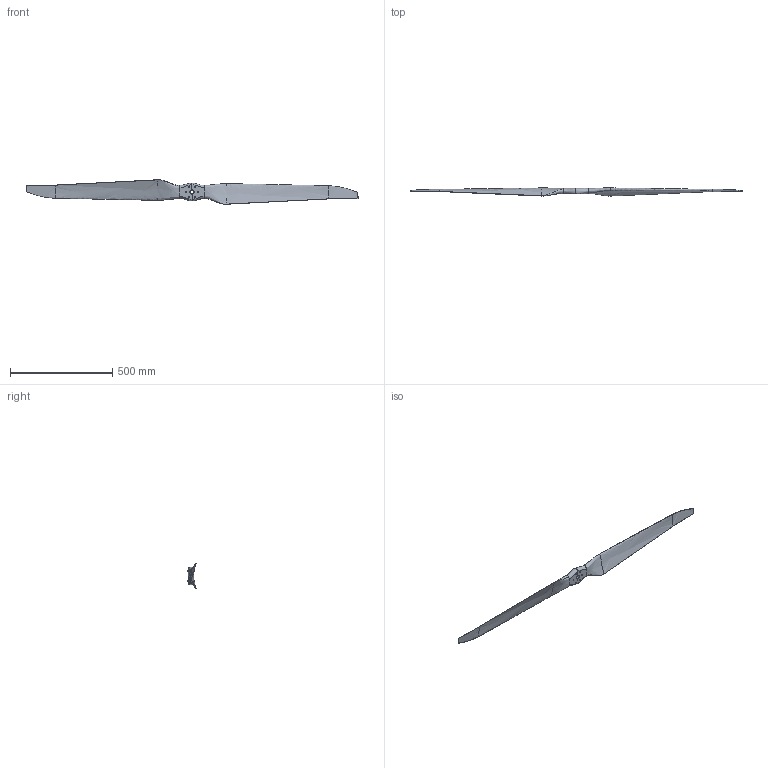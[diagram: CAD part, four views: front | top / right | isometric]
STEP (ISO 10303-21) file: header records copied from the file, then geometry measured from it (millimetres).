
FILE_DESCRIPTION (( 'STEP AP214' ), '1' );
FILE_NAME ('6423-P(光桨叶，对外模型).STEP', '2026-02-07T07:50:25', ( '' ), ( '' ), 'SwSTEP 2.0', 'SolidWorks 2021', '' );
FILE_SCHEMA (( 'AUTOMOTIVE_DESIGN' ));
Length unit declared in the file: millimetre
Products named in the file (1): 6423-P(光桨叶，对外模型)
Bounding box: 1625.6 x 39.81 x 119.92 mm (x, y, z)
Volume: 1234294.2 mm3; surface area: 273954.2 mm2
Topology: 1 solids, 1 shells, 29 faces, 80 edges, 51 vertices
Faces by surface type: bspline 20, cylinder 7, plane 2
Full cylindrical faces by diameter (mm): 6 x6, 20 x1
Entity records: 45388 total; most frequent: CARTESIAN_POINT 44463, ORIENTED_EDGE 146, EDGE_CURVE 73, B_SPLINE_CURVE_WITH_KNOTS 58, VERTEX_POINT 51, EDGE_LOOP 48, DIRECTION 46, FACE_OUTER_BOUND 36
